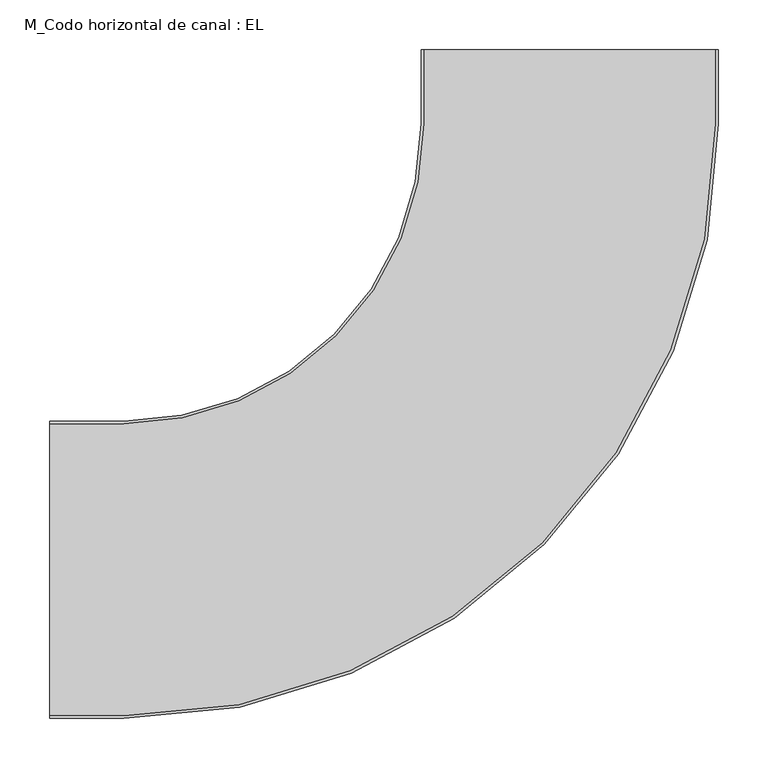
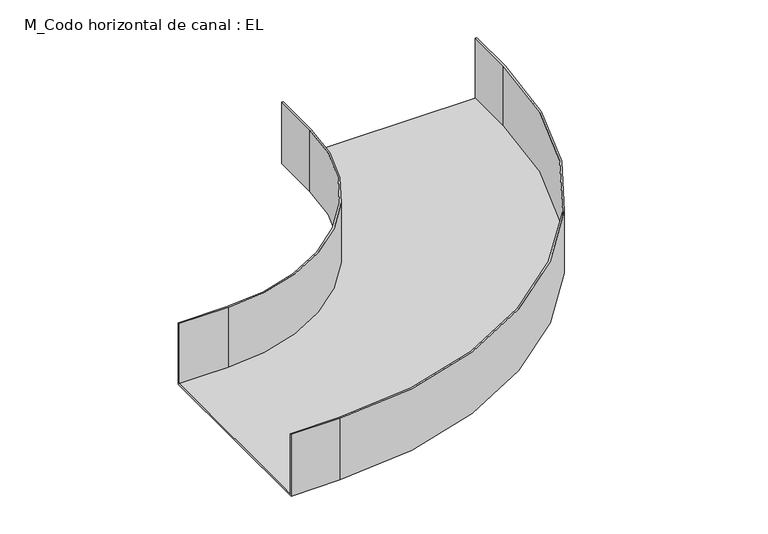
"""IFC4 building model written with IfcOpenShell, lengths in millimetres: cable carrier fitting geometry, M_Codo horizontal de canal : EL."""

from ifc_helpers import new_model, si_unit, frame, origin, place, context, project, spatial, polyline, circle_curve, source, transform, mapped, element, save
from ifc_brep_helpers import plane_surface, cylinder_surface, revolved_surface, advanced_brep


def m_codo_horizontal_de_canal_el_5b0e7b07(model_context):
    return source(origin(), model_context, "Body", "AdvancedBrep", [
        advanced_brep(
        [(-525.0, -150.0, -50.0), (-525.0, -150.0, 50.0), (-525.0, -147.46, 50.0), (-525.0, -147.46, -47.46), (-525.0, 147.46, -47.46), (-525.0, 147.46, 50.0), (-525.0, 150.0, 50.0), (-525.0, 150.0, -50.0), (150.0, 525.0, -50.0), (-150.0, 525.0, -50.0), (-150.0, 525.0, 50.0), (-147.46, 525.0, 50.0), (-147.46, 525.0, -47.46), (147.46, 525.0, -47.46), (147.46, 525.0, 50.0), (150.0, 525.0, 50.0), (-450.0, -150.0, -50.0), (-450.0, -150.0, 50.0), (150.0, 450.0, 50.0), (147.46, 450.0, 50.0), (-450.0, -147.46, 50.0), (-450.0, -147.46, -47.46), (147.46, 450.0, -47.46), (-147.46, 450.0, -47.46), (-450.0, 147.46, -47.46), (-450.0, 147.46, 50.0), (-147.46, 450.0, 50.0), (-150.0, 450.0, 50.0), (-450.0, 150.0, 50.0), (-450.0, 150.0, -50.0), (-150.0, 450.0, -50.0), (150.0, 450.0, -50.0)],
        [
            (0, 1),
            (1, 2),
            (2, 3),
            (3, 4),
            (4, 5),
            (5, 6),
            (6, 7),
            (7, 0),
            (8, 9),
            (9, 10),
            (10, 11),
            (11, 12),
            (12, 13),
            (13, 14),
            (14, 15),
            (15, 8),
            (0, 16),
            (16, 17),
            (17, 1),
            (17, 18, circle_curve(frame((-450.0, 450.0, 50.0), z_axis=(0.0, 0.0, 1.0), x_axis=(0.0, -1.0, 0.0)), 600.0)),
            (18, 15),
            (14, 19),
            (19, 20, circle_curve(frame((-450.0, 450.0, 50.0), z_axis=(0.0, 0.0, -1.0), x_axis=(0.0, -1.0, 0.0)), 597.46)),
            (20, 2),
            (20, 21),
            (21, 3),
            (21, 22, circle_curve(frame((-450.0, 450.0, -47.46), z_axis=(0.0, 0.0, 1.0), x_axis=(0.0, -1.0, 0.0)), 597.46)),
            (22, 13),
            (12, 23),
            (23, 24, circle_curve(frame((-450.0, 450.0, -47.46), z_axis=(0.0, 0.0, -1.0), x_axis=(0.0, -1.0, 0.0)), 302.54)),
            (24, 4),
            (24, 25),
            (25, 5),
            (25, 26, circle_curve(frame((-450.0, 450.0, 50.0), z_axis=(0.0, 0.0, 1.0), x_axis=(0.0, -1.0, 0.0)), 302.54)),
            (26, 11),
            (10, 27),
            (27, 28, circle_curve(frame((-450.0, 450.0, 50.0), z_axis=(0.0, 0.0, -1.0), x_axis=(0.0, -1.0, 0.0)), 300.0)),
            (28, 6),
            (28, 29),
            (29, 7),
            (29, 30, circle_curve(frame((-450.0, 450.0, -50.0), z_axis=(0.0, 0.0, 1.0), x_axis=(0.0, -1.0, 0.0)), 300.0)),
            (30, 9),
            (8, 31),
            (31, 16, circle_curve(frame((-450.0, 450.0, -50.0), z_axis=(0.0, 0.0, -1.0), x_axis=(0.0, -1.0, 0.0)), 600.0)),
            (31, 18),
            (19, 22),
            (23, 26),
            (27, 30),
        ],
        [
            plane_surface(frame((-525.0, 0.0, 0.0), z_axis=(-1.0, 0.0, 0.0), x_axis=(0.0, 0.0, 1.0))),
            plane_surface(frame((0.0, 525.0, 0.0), z_axis=(0.0, 1.0, 0.0), x_axis=(0.0, 0.0, 1.0))),
            plane_surface(frame((-525.0, -150.0, -50.0), z_axis=(0.0, -1.0, 0.0), x_axis=(1.0, 0.0, 0.0))),
            plane_surface(frame((-525.0, -150.0, 50.0), z_axis=(0.0, 0.0, 1.0), x_axis=(1.0, 0.0, 0.0))),
            plane_surface(frame((-525.0, -147.46, 50.0), z_axis=(0.0, 1.0, 0.0), x_axis=(1.0, 0.0, 0.0))),
            plane_surface(frame((-525.0, -147.46, -47.46), z_axis=(0.0, 0.0, 1.0), x_axis=(1.0, 0.0, 0.0))),
            plane_surface(frame((-525.0, 147.46, -47.46), z_axis=(0.0, -1.0, 0.0), x_axis=(1.0, 0.0, 0.0))),
            plane_surface(frame((-525.0, 147.46, 50.0), z_axis=(0.0, 0.0, 1.0), x_axis=(1.0, 0.0, 0.0))),
            plane_surface(frame((-525.0, 150.0, 50.0), z_axis=(0.0, 1.0, 0.0), x_axis=(1.0, 0.0, 0.0))),
            plane_surface(frame((-525.0, 150.0, -50.0), z_axis=(0.0, 0.0, -1.0), x_axis=(1.0, 0.0, 0.0))),
            cylinder_surface(frame((-450.0, 450.0, 0.0), z_axis=(0.0, 0.0, 1.0), x_axis=(0.0, -1.0, 0.0)), 600.0),
            revolved_surface(polyline([(-450.0, -147.46000000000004, 50.0), (-450.0, -147.46000000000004, -47.46)]), (-450.0, 450.0, 0.0), (0.0, 0.0, 1.0)),
            cylinder_surface(frame((-450.0, 450.0, 0.0), z_axis=(0.0, 0.0, 1.0), x_axis=(0.0, -1.0, 0.0)), 302.54),
            revolved_surface(polyline([(-450.0, 150.0, 50.0), (-450.0, 150.0, -50.0)]), (-450.0, 450.0, 0.0), (0.0, 0.0, 1.0)),
            plane_surface(frame((150.0, 450.0, -50.0), z_axis=(1.0, 0.0, 0.0), x_axis=(0.0, 1.0, 0.0))),
            plane_surface(frame((147.46, 450.0, 50.0), z_axis=(-1.0, 0.0, 0.0), x_axis=(0.0, 1.0, 0.0))),
            plane_surface(frame((-147.46, 450.0, -47.46), z_axis=(1.0, 0.0, 0.0), x_axis=(0.0, 1.0, 0.0))),
            plane_surface(frame((-150.0, 450.0, 50.0), z_axis=(-1.0, 0.0, 0.0), x_axis=(0.0, 1.0, 0.0))),
        ],
        [
            (0, [[1, 2, 3, 4, 5, 6, 7, 8]]),
            (1, [[9, 10, 11, 12, 13, 14, 15, 16]]),
            (2, [[-1, 17, 18, 19]]),
            (3, [[-2, -19, 20, 21, -15, 22, 23, 24]]),
            (4, [[-3, -24, 25, 26]]),
            (5, [[-4, -26, 27, 28, -13, 29, 30, 31]]),
            (6, [[-5, -31, 32, 33]]),
            (7, [[-6, -33, 34, 35, -11, 36, 37, 38]]),
            (8, [[-7, -38, 39, 40]]),
            (9, [[-8, -40, 41, 42, -9, 43, 44, -17]]),
            (10, [[-20, -18, -44, 45]]),
            (11, [[-27, -25, -23, 46]]),
            (12, [[-34, -32, -30, 47]]),
            (13, [[-41, -39, -37, 48]]),
            (14, [[-45, -43, -16, -21]]),
            (15, [[-46, -22, -14, -28]]),
            (16, [[-47, -29, -12, -35]]),
            (17, [[-48, -36, -10, -42]]),
        ],
    ),
    ])


if __name__ == "__main__":
    model = new_model("IFC4")
    model_context = context("Model", 3, world=origin())
    ifc_project = project(units=[si_unit("LENGTHUNIT", "METRE", prefix="MILLI")], contexts=[model_context])
    site = spatial("IfcSite", under=ifc_project)
    building = spatial("IfcBuilding", under=site)
    placement = place(None, origin())
    m_codo_horizontal_de_canal_el_shape = m_codo_horizontal_de_canal_el_5b0e7b07(model_context)
    element("IfcCableCarrierFitting", 1, ObjectType="M_Codo horizontal de canal : EL", at=placement, inside=building, context=model_context, shape_type="MappedRepresentation", body=[
        mapped(m_codo_horizontal_de_canal_el_shape, transform((0.0, 0.0, 0.0), x_axis=(1.0, 0.0, 0.0), y_axis=(0.0, 1.0, 0.0), z_axis=(0.0, 0.0, 1.0))),
    ])
    save(model, "model.ifc")
